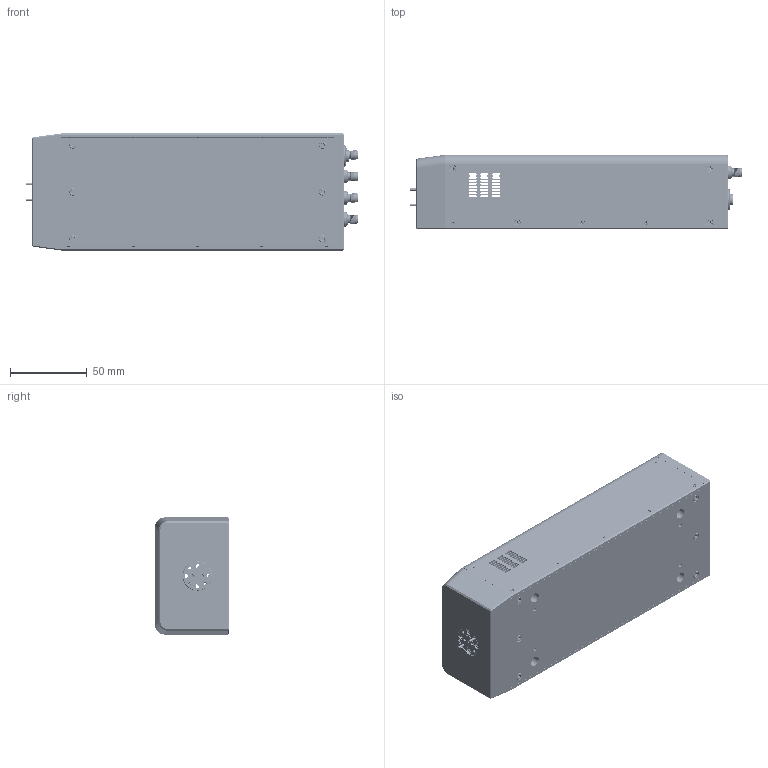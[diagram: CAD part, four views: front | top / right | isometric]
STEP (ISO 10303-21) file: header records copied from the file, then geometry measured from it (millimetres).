
FILE_DESCRIPTION (( 'STEP AP203' ), '1' );
FILE_NAME ('TO-SD-A-2-Mountable.STEP', '2025-07-17T16:54:58', ( '' ), ( '' ), 'SwSTEP 2.0', 'SolidWorks 2021', '' );
FILE_SCHEMA (( 'CONFIG_CONTROL_DESIGN' ));
Products named in the file (1): TO-SD-A-2-Mountable
Bounding box: 216.16 x 48.26 x 76.2 mm (x, y, z)
Volume: 197565.5 mm3; surface area: 137146.6 mm2
Topology: 92 solids, 92 shells, 4024 faces, 10693 edges, 6845 vertices
Faces by surface type: cylinder 1797, plane 1184, cone 601, bspline 438, torus 4
Entity records: 238197 total; most frequent: CARTESIAN_POINT 148572, ORIENTED_EDGE 21138, DIRECTION 15804, EDGE_CURVE 10569, VERTEX_POINT 6845, AXIS2_PLACEMENT_3D 5867, EDGE_LOOP 4418, LINE 4070
